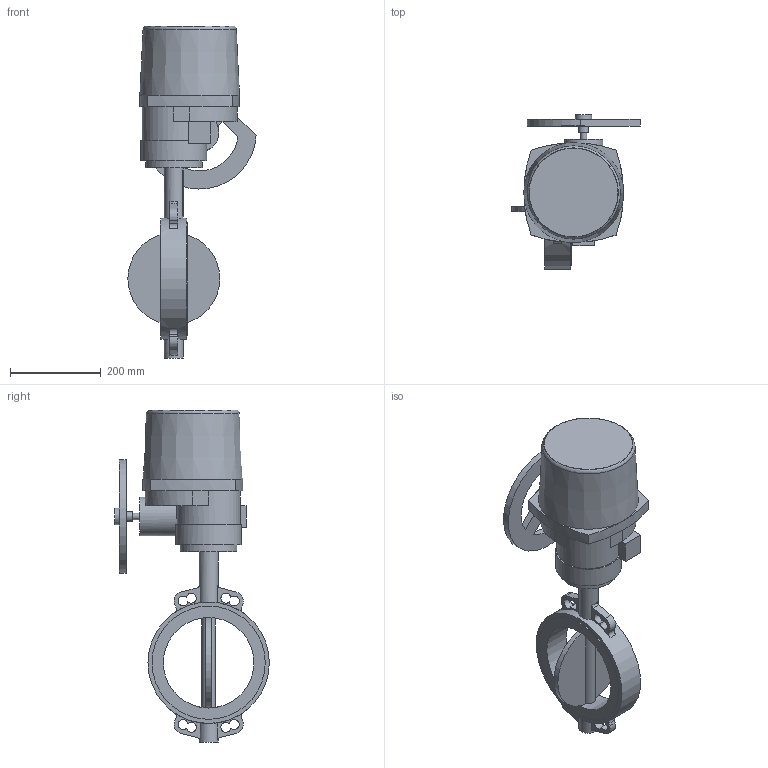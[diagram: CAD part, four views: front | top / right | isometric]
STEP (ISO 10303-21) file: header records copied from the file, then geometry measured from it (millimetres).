
FILE_DESCRIPTION(('STEP AP203'), '1');
FILE_NAME('青蜮铕 017WDN200+菹 QT30-1', '', ('UNSPECIFIED'), ('UNSPECIFIED'), 'ASCON STEP Converter 1.6', 'ASCON Math Kernel', '');
FILE_SCHEMA(('CONFIG_CONTROL_DESIGN'));
Length unit declared in the file: millimetre
Bounding box: 283.28 x 341.5 x 733 mm (x, y, z)
Volume: 10142082.1 mm3; surface area: 656996.4 mm2
Topology: 1 solids, 2 shells, 721 faces, 2094 edges, 1348 vertices
Faces by surface type: cylinder 505, plane 207, bspline 6, torus 2, cone 1
Full cylindrical faces by diameter (mm): 10 x4, 12 x4, 14 x1, 22 x1, 22.1 x1, 36 x1, 42 x2, 70 x1, 85 x1, 125 x1, 145 x1, 200 x1, 250 x2, 268 x1
Entity records: 31608 total; most frequent: CARTESIAN_POINT 5921, DIRECTION 4539, ORIENTED_EDGE 4069, EDGE_CURVE 2066, AXIS2_PLACEMENT_3D 1797, VERTEX_POINT 1346, CIRCLE 1081, LINE 945
